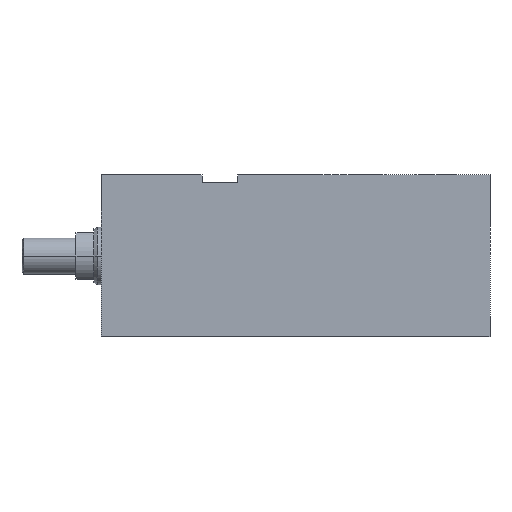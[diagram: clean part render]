
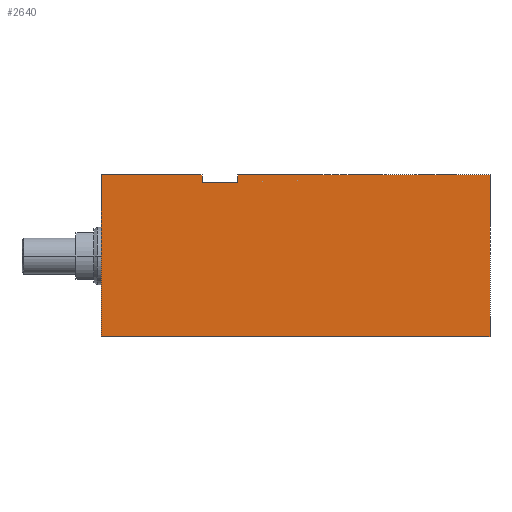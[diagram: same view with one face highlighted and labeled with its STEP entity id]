
A CAD part, left-side view. The second image highlights one B-rep face of the part: STEP entity #2640.
In plain terms, the highlighted planar face has unit normal (-1, 0, 0).
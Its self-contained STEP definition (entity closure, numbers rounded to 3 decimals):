
#21 = FACE_OUTER_BOUND ( 'NONE', #2937, .T. ) ;
#40 = LINE ( 'NONE', #2341, #1476 ) ;
#55 = PLANE ( 'NONE',  #363 ) ;
#159 = ORIENTED_EDGE ( 'NONE', *, *, #2465, .F. ) ;
#187 = LINE ( 'NONE', #960, #1296 ) ;
#290 = VECTOR ( 'NONE', #1202, 1000. ) ;
#363 = AXIS2_PLACEMENT_3D ( 'NONE', #2515, #2999, #1786 ) ;
#474 = DIRECTION ( 'NONE',  ( 0., 0., 1. ) ) ;
#527 = EDGE_CURVE ( 'NONE', #2314, #2912, #2681, .T. ) ;
#648 = CARTESIAN_POINT ( 'NONE',  ( -32.5, 80., 22.5 ) ) ;
#658 = ORIENTED_EDGE ( 'NONE', *, *, #2395, .T. ) ;
#670 = DIRECTION ( 'NONE',  ( 0., -1., 0. ) ) ;
#715 = CARTESIAN_POINT ( 'NONE',  ( -32.5, 70., 20.5 ) ) ;
#732 = CARTESIAN_POINT ( 'NONE',  ( -32.5, 108., -22.5 ) ) ;
#814 = CARTESIAN_POINT ( 'NONE',  ( -32.5, 0., 22.5 ) ) ;
#849 = CARTESIAN_POINT ( 'NONE',  ( -32.5, 0., -22.5 ) ) ;
#867 = VECTOR ( 'NONE', #1358, 1000. ) ;
#876 = LINE ( 'NONE', #715, #2189 ) ;
#887 = ORIENTED_EDGE ( 'NONE', *, *, #3029, .T. ) ;
#896 = CARTESIAN_POINT ( 'NONE',  ( -32.5, 80., 20.5 ) ) ;
#906 = DIRECTION ( 'NONE',  ( 0., 0., 1. ) ) ;
#930 = ORIENTED_EDGE ( 'NONE', *, *, #2469, .T. ) ;
#954 = VERTEX_POINT ( 'NONE', #814 ) ;
#960 = CARTESIAN_POINT ( 'NONE',  ( -32.5, 58., -22.5 ) ) ;
#1162 = VERTEX_POINT ( 'NONE', #2131 ) ;
#1202 = DIRECTION ( 'NONE',  ( 0., 0., 1. ) ) ;
#1203 = VERTEX_POINT ( 'NONE', #732 ) ;
#1269 = DIRECTION ( 'NONE',  ( 0., -1., 0. ) ) ;
#1296 = VECTOR ( 'NONE', #670, 1000. ) ;
#1358 = DIRECTION ( 'NONE',  ( 0., -1., 0. ) ) ;
#1391 = CARTESIAN_POINT ( 'NONE',  ( -32.5, 58., 22.5 ) ) ;
#1412 = CARTESIAN_POINT ( 'NONE',  ( -32.5, 0., -22.5 ) ) ;
#1476 = VECTOR ( 'NONE', #906, 1000. ) ;
#1502 = VECTOR ( 'NONE', #474, 1000. ) ;
#1638 = ORIENTED_EDGE ( 'NONE', *, *, #2256, .F. ) ;
#1721 = EDGE_CURVE ( 'NONE', #1203, #2314, #40, .T. ) ;
#1736 = CARTESIAN_POINT ( 'NONE',  ( -32.5, 70., 20.5 ) ) ;
#1763 = VERTEX_POINT ( 'NONE', #896 ) ;
#1785 = LINE ( 'NONE', #2987, #2616 ) ;
#1786 = DIRECTION ( 'NONE',  ( 0., 0., -1. ) ) ;
#1876 = LINE ( 'NONE', #3068, #2237 ) ;
#2064 = ORIENTED_EDGE ( 'NONE', *, *, #527, .F. ) ;
#2131 = CARTESIAN_POINT ( 'NONE',  ( -32.5, 70., 22.5 ) ) ;
#2148 = LINE ( 'NONE', #1412, #1502 ) ;
#2189 = VECTOR ( 'NONE', #2405, 1000. ) ;
#2233 = LINE ( 'NONE', #3141, #290 ) ;
#2237 = VECTOR ( 'NONE', #2795, 1000. ) ;
#2256 = EDGE_CURVE ( 'NONE', #1162, #954, #1876, .T. ) ;
#2314 = VERTEX_POINT ( 'NONE', #2340 ) ;
#2340 = CARTESIAN_POINT ( 'NONE',  ( -32.5, 108., 22.5 ) ) ;
#2341 = CARTESIAN_POINT ( 'NONE',  ( -32.5, 108., -22.5 ) ) ;
#2395 = EDGE_CURVE ( 'NONE', #2867, #954, #2148, .T. ) ;
#2405 = DIRECTION ( 'NONE',  ( 0., 0., 1. ) ) ;
#2465 = EDGE_CURVE ( 'NONE', #2497, #1162, #876, .T. ) ;
#2469 = EDGE_CURVE ( 'NONE', #1763, #2912, #2233, .T. ) ;
#2497 = VERTEX_POINT ( 'NONE', #1736 ) ;
#2515 = CARTESIAN_POINT ( 'NONE',  ( -32.5, 58., -22.5 ) ) ;
#2605 = ORIENTED_EDGE ( 'NONE', *, *, #1721, .F. ) ;
#2616 = VECTOR ( 'NONE', #1269, 1000. ) ;
#2640 = ADVANCED_FACE ( 'NONE', ( #21 ), #55, .F. ) ;
#2681 = LINE ( 'NONE', #1391, #867 ) ;
#2795 = DIRECTION ( 'NONE',  ( 0., -1., 0. ) ) ;
#2836 = EDGE_CURVE ( 'NONE', #1763, #2497, #1785, .T. ) ;
#2867 = VERTEX_POINT ( 'NONE', #849 ) ;
#2912 = VERTEX_POINT ( 'NONE', #648 ) ;
#2937 = EDGE_LOOP ( 'NONE', ( #1638, #159, #3078, #930, #2064, #2605, #887, #658 ) ) ;
#2987 = CARTESIAN_POINT ( 'NONE',  ( -32.5, 80., 20.5 ) ) ;
#2999 = DIRECTION ( 'NONE',  ( 1., 0., 0. ) ) ;
#3029 = EDGE_CURVE ( 'NONE', #1203, #2867, #187, .T. ) ;
#3068 = CARTESIAN_POINT ( 'NONE',  ( -32.5, 58., 22.5 ) ) ;
#3078 = ORIENTED_EDGE ( 'NONE', *, *, #2836, .F. ) ;
#3141 = CARTESIAN_POINT ( 'NONE',  ( -32.5, 80., 20.5 ) ) ;
